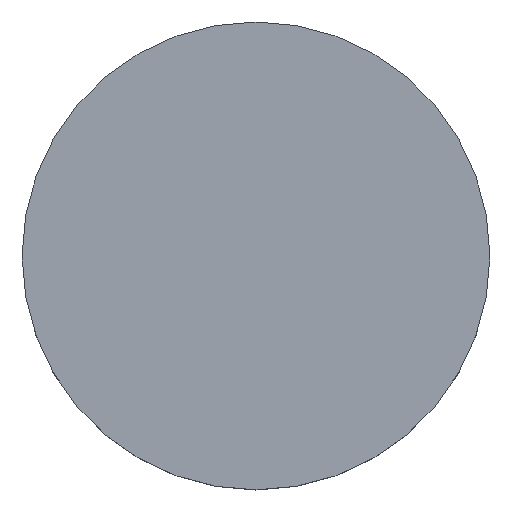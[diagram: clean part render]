
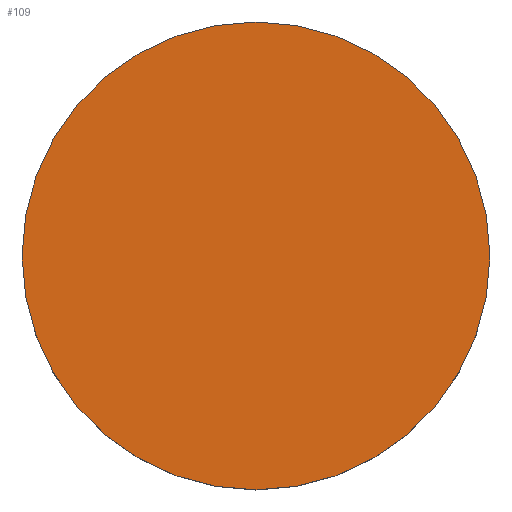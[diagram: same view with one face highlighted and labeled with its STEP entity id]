
A CAD part, top view. The second image highlights one B-rep face of the part: STEP entity #109.
In plain terms, the highlighted planar face has unit normal (0, 0, 1).
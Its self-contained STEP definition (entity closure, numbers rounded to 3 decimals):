
#24 = VERTEX_POINT('',#25);
#25 = CARTESIAN_POINT('',(23.,0.,8.));
#32 = CYLINDRICAL_SURFACE('',#33,23.);
#33 = AXIS2_PLACEMENT_3D('',#34,#35,#36);
#34 = CARTESIAN_POINT('',(0.,0.,0.));
#35 = DIRECTION('',(-0.,-0.,-1.));
#36 = DIRECTION('',(1.,0.,-0.));
#51 = EDGE_CURVE('',#24,#24,#52,.T.);
#52 = SURFACE_CURVE('',#53,(#58,#65),.PCURVE_S1.);
#53 = CIRCLE('',#54,23.);
#54 = AXIS2_PLACEMENT_3D('',#55,#56,#57);
#55 = CARTESIAN_POINT('',(0.,0.,8.));
#56 = DIRECTION('',(0.,0.,1.));
#57 = DIRECTION('',(1.,0.,-0.));
#58 = PCURVE('',#32,#59);
#59 = DEFINITIONAL_REPRESENTATION('',(#60),#64);
#60 = LINE('',#61,#62);
#61 = CARTESIAN_POINT('',(-0.,-8.));
#62 = VECTOR('',#63,1.);
#63 = DIRECTION('',(-1.,0.));
#64 = ( GEOMETRIC_REPRESENTATION_CONTEXT(2) 
PARAMETRIC_REPRESENTATION_CONTEXT() REPRESENTATION_CONTEXT('2D SPACE',''
  ) );
#65 = PCURVE('',#66,#71);
#66 = PLANE('',#67);
#67 = AXIS2_PLACEMENT_3D('',#68,#69,#70);
#68 = CARTESIAN_POINT('',(0.,0.,8.));
#69 = DIRECTION('',(0.,0.,1.));
#70 = DIRECTION('',(1.,0.,-0.));
#71 = DEFINITIONAL_REPRESENTATION('',(#72),#76);
#72 = CIRCLE('',#73,23.);
#73 = AXIS2_PLACEMENT_2D('',#74,#75);
#74 = CARTESIAN_POINT('',(0.,0.));
#75 = DIRECTION('',(1.,0.));
#76 = ( GEOMETRIC_REPRESENTATION_CONTEXT(2) 
PARAMETRIC_REPRESENTATION_CONTEXT() REPRESENTATION_CONTEXT('2D SPACE',''
  ) );
#109 = ADVANCED_FACE('',(#110),#66,.T.);
#110 = FACE_BOUND('',#111,.T.);
#111 = EDGE_LOOP('',(#112));
#112 = ORIENTED_EDGE('',*,*,#51,.T.);
